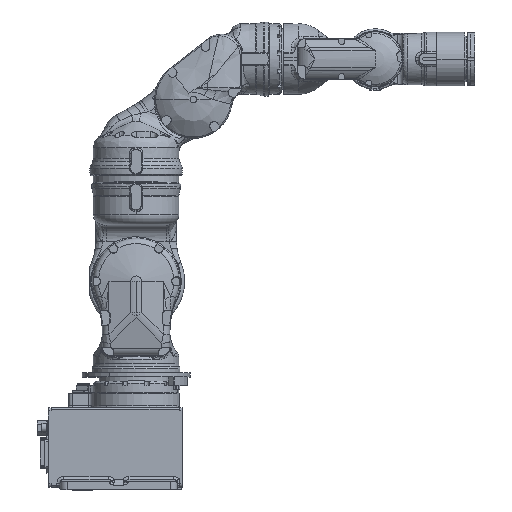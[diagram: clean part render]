
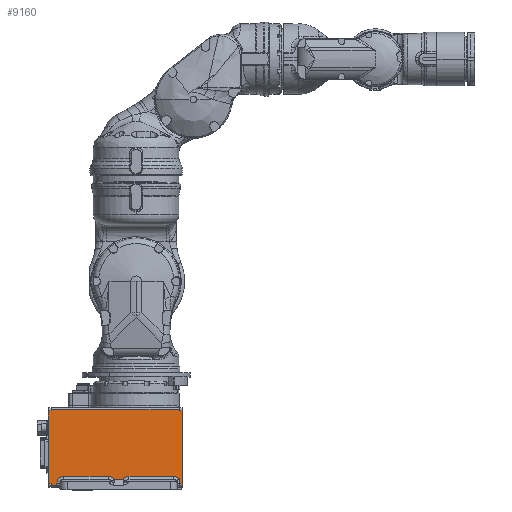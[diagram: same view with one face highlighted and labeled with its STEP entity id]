
A CAD part, top view. The second image highlights one B-rep face of the part: STEP entity #9160.
In plain terms, the highlighted planar face has unit normal (0, 0, 1).
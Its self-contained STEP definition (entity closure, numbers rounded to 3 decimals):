
#3336=B_SPLINE_CURVE_WITH_KNOTS('',3,(#101519,#101520,#101521,#101522,#101523),
 .UNSPECIFIED.,.F.,.F.,(4,1,4),(0.,0.5,1.),.UNSPECIFIED.);
#7059=FACE_OUTER_BOUND('',#12208,.T.);
#9160=ADVANCED_FACE('',(#7059),#10008,.T.);
#10008=PLANE('',#38963);
#12208=EDGE_LOOP('',(#24476,#24477,#24478,#24479,#24480,#24481,#24482,#24483,
#24484,#24485,#24486,#24487,#24488,#24489,#24490,#24491,#24492,#24493,#24494,
#24495,#24496));
#13723=LINE('',#101490,#15449);
#13724=LINE('',#101498,#15450);
#13725=LINE('',#101500,#15451);
#13726=LINE('',#101503,#15452);
#13727=LINE('',#101507,#15453);
#13728=LINE('',#101511,#15454);
#13729=LINE('',#101515,#15455);
#13730=LINE('',#101525,#15456);
#13731=LINE('',#101527,#15457);
#13732=LINE('',#101529,#15458);
#13733=LINE('',#101531,#15459);
#13734=LINE('',#101533,#15460);
#13735=LINE('',#101535,#15461);
#13736=LINE('',#101536,#15462);
#13737=LINE('',#101538,#15463);
#13738=LINE('',#101540,#15464);
#15449=VECTOR('',#44681,1.);
#15450=VECTOR('',#44690,1.);
#15451=VECTOR('',#44693,1.);
#15452=VECTOR('',#44694,1.);
#15453=VECTOR('',#44697,1.);
#15454=VECTOR('',#44700,1.);
#15455=VECTOR('',#44703,1.);
#15456=VECTOR('',#44706,1.);
#15457=VECTOR('',#44707,1.);
#15458=VECTOR('',#44708,1.);
#15459=VECTOR('',#44709,1.);
#15460=VECTOR('',#44710,1.);
#15461=VECTOR('',#44711,1.);
#15462=VECTOR('',#44712,1.);
#15463=VECTOR('',#44713,1.);
#15464=VECTOR('',#44714,1.);
#24476=ORIENTED_EDGE('',*,*,#34485,.F.);
#24477=ORIENTED_EDGE('',*,*,#34486,.F.);
#24478=ORIENTED_EDGE('',*,*,#34487,.F.);
#24479=ORIENTED_EDGE('',*,*,#34488,.F.);
#24480=ORIENTED_EDGE('',*,*,#34489,.F.);
#24481=ORIENTED_EDGE('',*,*,#34490,.T.);
#24482=ORIENTED_EDGE('',*,*,#34491,.F.);
#24483=ORIENTED_EDGE('',*,*,#34492,.F.);
#24484=ORIENTED_EDGE('',*,*,#34493,.F.);
#24485=ORIENTED_EDGE('',*,*,#34494,.T.);
#24486=ORIENTED_EDGE('',*,*,#34495,.T.);
#24487=ORIENTED_EDGE('',*,*,#34496,.F.);
#24488=ORIENTED_EDGE('',*,*,#34497,.F.);
#24489=ORIENTED_EDGE('',*,*,#34498,.T.);
#24490=ORIENTED_EDGE('',*,*,#34499,.F.);
#24491=ORIENTED_EDGE('',*,*,#34500,.F.);
#24492=ORIENTED_EDGE('',*,*,#34480,.T.);
#24493=ORIENTED_EDGE('',*,*,#34484,.F.);
#24494=ORIENTED_EDGE('',*,*,#34501,.T.);
#24495=ORIENTED_EDGE('',*,*,#34502,.T.);
#24496=ORIENTED_EDGE('',*,*,#34503,.T.);
#29542=VERTEX_POINT('',#101491);
#29543=VERTEX_POINT('',#101492);
#29544=VERTEX_POINT('',#101497);
#29545=VERTEX_POINT('',#101501);
#29546=VERTEX_POINT('',#101502);
#29547=VERTEX_POINT('',#101504);
#29548=VERTEX_POINT('',#101506);
#29549=VERTEX_POINT('',#101508);
#29550=VERTEX_POINT('',#101510);
#29551=VERTEX_POINT('',#101512);
#29552=VERTEX_POINT('',#101514);
#29553=VERTEX_POINT('',#101516);
#29554=VERTEX_POINT('',#101518);
#29555=VERTEX_POINT('',#101524);
#29556=VERTEX_POINT('',#101526);
#29557=VERTEX_POINT('',#101528);
#29558=VERTEX_POINT('',#101530);
#29559=VERTEX_POINT('',#101532);
#29560=VERTEX_POINT('',#101534);
#29561=VERTEX_POINT('',#101537);
#29562=VERTEX_POINT('',#101539);
#34480=EDGE_CURVE('',#29542,#29543,#13723,.T.);
#34484=EDGE_CURVE('',#29544,#29543,#13724,.T.);
#34485=EDGE_CURVE('',#29545,#29546,#13725,.T.);
#34486=EDGE_CURVE('',#29547,#29545,#13726,.T.);
#34487=EDGE_CURVE('',#29548,#29547,#36677,.T.);
#34488=EDGE_CURVE('',#29549,#29548,#13727,.T.);
#34489=EDGE_CURVE('',#29550,#29549,#36678,.T.);
#34490=EDGE_CURVE('',#29550,#29551,#13728,.T.);
#34491=EDGE_CURVE('',#29552,#29551,#36679,.T.);
#34492=EDGE_CURVE('',#29553,#29552,#13729,.T.);
#34493=EDGE_CURVE('',#29554,#29553,#36680,.T.);
#34494=EDGE_CURVE('',#29554,#29555,#3336,.T.);
#34495=EDGE_CURVE('',#29555,#29556,#13730,.T.);
#34496=EDGE_CURVE('',#29557,#29556,#13731,.T.);
#34497=EDGE_CURVE('',#29558,#29557,#13732,.T.);
#34498=EDGE_CURVE('',#29558,#29559,#13733,.T.);
#34499=EDGE_CURVE('',#29560,#29559,#13734,.T.);
#34500=EDGE_CURVE('',#29542,#29560,#13735,.T.);
#34501=EDGE_CURVE('',#29544,#29561,#13736,.T.);
#34502=EDGE_CURVE('',#29561,#29562,#13737,.T.);
#34503=EDGE_CURVE('',#29562,#29546,#13738,.T.);
#36677=CIRCLE('',#38959,10.);
#36678=CIRCLE('',#38960,10.);
#36679=CIRCLE('',#38961,10.);
#36680=CIRCLE('',#38962,10.);
#38959=AXIS2_PLACEMENT_3D('',#101505,#44695,#44696);
#38960=AXIS2_PLACEMENT_3D('',#101509,#44698,#44699);
#38961=AXIS2_PLACEMENT_3D('',#101513,#44701,#44702);
#38962=AXIS2_PLACEMENT_3D('',#101517,#44704,#44705);
#38963=AXIS2_PLACEMENT_3D('',#101541,#44715,#44716);
#44681=DIRECTION('',(0.,-1.,0.));
#44690=DIRECTION('',(1.,0.,0.));
#44693=DIRECTION('',(-1.,0.,0.));
#44694=DIRECTION('',(0.,-1.,0.));
#44695=DIRECTION('',(0.,0.,1.));
#44696=DIRECTION('',(0.,1.,0.));
#44697=DIRECTION('',(-1.,0.,0.));
#44698=DIRECTION('',(0.,0.,1.));
#44699=DIRECTION('',(0.866,0.5,0.));
#44700=DIRECTION('',(1.,0.,0.));
#44701=DIRECTION('',(0.,0.,1.));
#44702=DIRECTION('',(0.,1.,0.));
#44703=DIRECTION('',(-1.,0.,0.));
#44704=DIRECTION('',(0.,0.,1.));
#44705=DIRECTION('',(0.8,0.6,0.));
#44706=DIRECTION('',(0.,-1.,0.));
#44707=DIRECTION('',(-1.,0.,0.));
#44708=DIRECTION('',(0.,-1.,0.));
#44709=DIRECTION('',(-1.,0.,0.));
#44710=DIRECTION('',(0.,-1.,0.));
#44711=DIRECTION('',(1.,0.,0.));
#44712=DIRECTION('',(0.,-1.,0.));
#44713=DIRECTION('',(1.,0.,0.));
#44714=DIRECTION('',(0.,-1.,0.));
#44715=DIRECTION('',(0.,0.,1.));
#44716=DIRECTION('',(-1.,0.,0.));
#101490=CARTESIAN_POINT('',(-126.,119.,82.5));
#101491=CARTESIAN_POINT('',(-126.,119.,82.5));
#101492=CARTESIAN_POINT('',(-126.,117.,82.5));
#101497=CARTESIAN_POINT('',(-130.2,117.,82.5));
#101498=CARTESIAN_POINT('',(-130.2,117.,82.5));
#101500=CARTESIAN_POINT('',(-117.5,7.,82.5));
#101501=CARTESIAN_POINT('',(-117.5,7.,82.5));
#101502=CARTESIAN_POINT('',(-126.,7.,82.5));
#101503=CARTESIAN_POINT('',(-117.5,10.,82.5));
#101504=CARTESIAN_POINT('',(-117.5,10.,82.5));
#101505=CARTESIAN_POINT('',(-107.5,10.,82.5));
#101506=CARTESIAN_POINT('',(-107.5,20.,82.5));
#101507=CARTESIAN_POINT('',(-41.416,20.,82.5));
#101508=CARTESIAN_POINT('',(-41.416,20.,82.5));
#101509=CARTESIAN_POINT('',(-41.416,10.,82.5));
#101510=CARTESIAN_POINT('',(-32.756,15.,82.5));
#101511=CARTESIAN_POINT('',(-32.756,15.,82.5));
#101512=CARTESIAN_POINT('',(-19.244,15.,82.5));
#101513=CARTESIAN_POINT('',(-10.584,10.,82.5));
#101514=CARTESIAN_POINT('',(-10.584,20.,82.5));
#101515=CARTESIAN_POINT('',(56.,20.,82.5));
#101516=CARTESIAN_POINT('',(56.,20.,82.5));
#101517=CARTESIAN_POINT('',(56.,10.,82.5));
#101518=CARTESIAN_POINT('',(64.,16.,82.5));
#101519=CARTESIAN_POINT('',(64.,16.,82.5));
#101520=CARTESIAN_POINT('',(64.,15.997,82.5));
#101521=CARTESIAN_POINT('',(64.,15.991,82.5));
#101522=CARTESIAN_POINT('',(64.,15.985,82.5));
#101523=CARTESIAN_POINT('',(64.,15.982,82.5));
#101524=CARTESIAN_POINT('',(64.,15.982,82.5));
#101525=CARTESIAN_POINT('',(64.,15.982,82.5));
#101526=CARTESIAN_POINT('',(64.,9.,82.5));
#101527=CARTESIAN_POINT('',(68.2,9.,82.5));
#101528=CARTESIAN_POINT('',(68.2,9.,82.5));
#101529=CARTESIAN_POINT('',(68.2,117.,82.5));
#101530=CARTESIAN_POINT('',(68.2,117.,82.5));
#101531=CARTESIAN_POINT('',(68.2,117.,82.5));
#101532=CARTESIAN_POINT('',(64.,117.,82.5));
#101533=CARTESIAN_POINT('',(64.,119.,82.5));
#101534=CARTESIAN_POINT('',(64.,119.,82.5));
#101535=CARTESIAN_POINT('',(-126.,119.,82.5));
#101536=CARTESIAN_POINT('',(-130.2,117.,82.5));
#101537=CARTESIAN_POINT('',(-130.2,9.,82.5));
#101538=CARTESIAN_POINT('',(-130.2,9.,82.5));
#101539=CARTESIAN_POINT('',(-126.,9.,82.5));
#101540=CARTESIAN_POINT('',(-126.,9.,82.5));
#101541=CARTESIAN_POINT('',(67.,122.,82.5));
